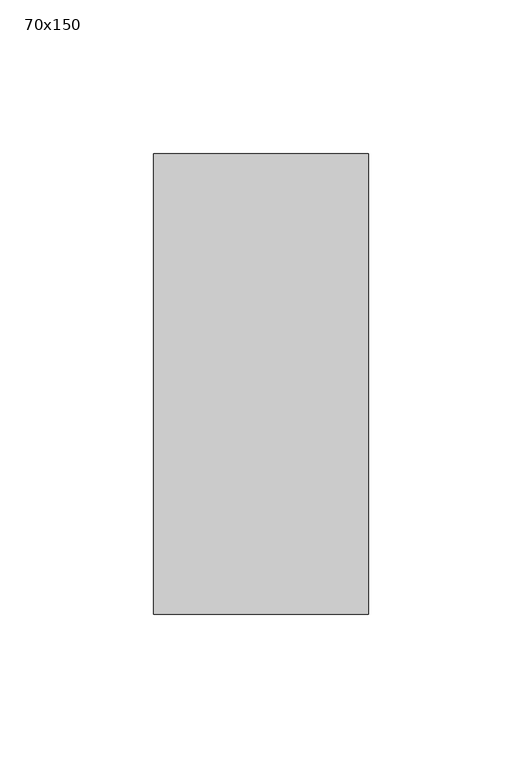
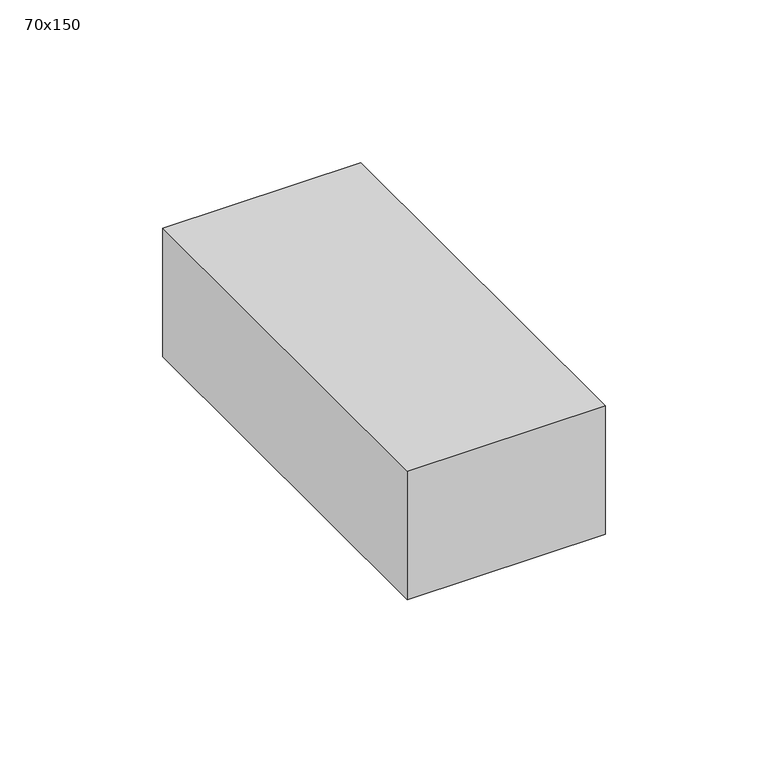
"""IFC4 building model written with IfcOpenShell, lengths in millimetres: member geometry, 長方形のマリオン : 70x150."""

from ifc_helpers import new_model, si_unit, frame, origin, place, context, project, spatial, polyline, outline, extrude, source, transform, mapped, element, save


def member_70x150_440e44aa(model_context):
    return source(origin(), model_context, "Body", "SweptSolid", [
        extrude(outline(polyline([(35.0, 75.0), (35.0, -75.0), (-35.0, -75.0), (-35.0, 75.0), (35.0, 75.0)])), frame((0.0, 0.0, -48.1002948), z_axis=(0.0, 0.0, 1.0), x_axis=(1.0, 0.0, 0.0)), (0.0, 0.0, 1.0), 48.1002948),
    ])


if __name__ == "__main__":
    model = new_model("IFC4")
    model_context = context("Model", 3, world=origin())
    ifc_project = project(units=[si_unit("LENGTHUNIT", "METRE", prefix="MILLI")], contexts=[model_context])
    site = spatial("IfcSite", under=ifc_project)
    building = spatial("IfcBuilding", under=site)
    placement = place(None, origin())
    member_70x150_shape = member_70x150_440e44aa(model_context)
    element("IfcMember", 1, ObjectType="長方形のマリオン : 70x150", at=placement, inside=building, context=model_context, shape_type="MappedRepresentation", body=[
        mapped(member_70x150_shape, transform((0.0, 0.0, 0.0), x_axis=(1.0, 0.0, 0.0), y_axis=(0.0, 1.0, 0.0), z_axis=(0.0, 0.0, 1.0))),
    ])
    save(model, "model.ifc")
